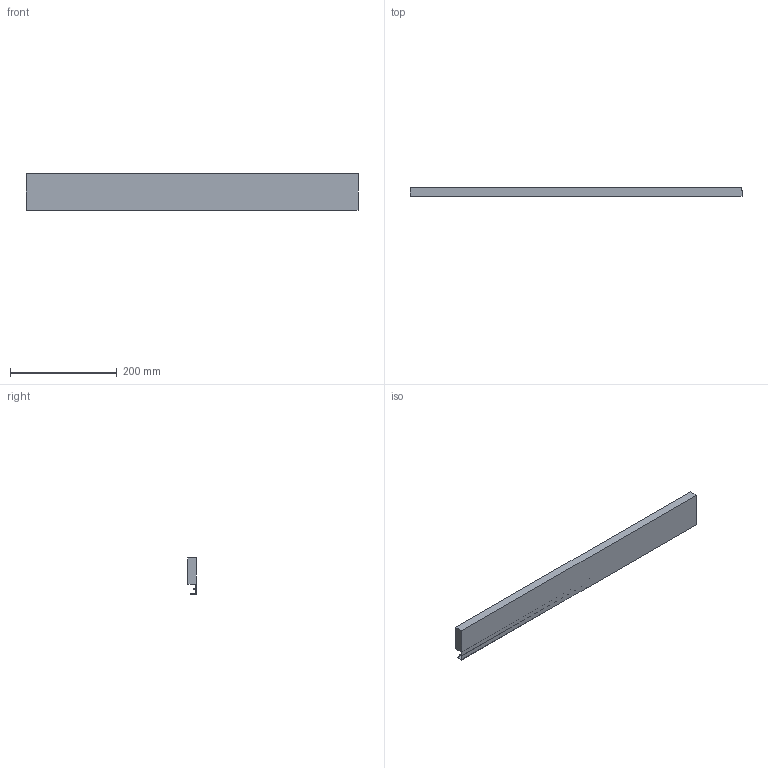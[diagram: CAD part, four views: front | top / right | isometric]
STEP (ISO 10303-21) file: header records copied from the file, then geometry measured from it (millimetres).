
FILE_DESCRIPTION (( 'STEP AP214' ), '1' );
FILE_NAME ('Innenschub-Blendenprofil_KAB750_S18.step', '2010-09-23T12:27:01', ( 'grass' ), ( '' ), 'SwSTEP 2.0', 'SolidWorks 2010', '' );
FILE_SCHEMA (( 'AUTOMOTIVE_DESIGN' ));
Length unit declared in the file: millimetre
Products named in the file (1): Innenschub-Blendenprofil_KAB750_S18
Bounding box: 623 x 15.9 x 67.6 mm (x, y, z)
Volume: 516562.8 mm3; surface area: 123925.6 mm2
Topology: 1 solids, 1 shells, 17 faces, 42 edges, 28 vertices
Faces by surface type: plane 15, cylinder 2
Entity records: 534 total; most frequent: CARTESIAN_POINT 88, ORIENTED_EDGE 84, DIRECTION 82, EDGE_CURVE 42, LINE 38, VECTOR 38, VERTEX_POINT 28, AXIS2_PLACEMENT_3D 22
